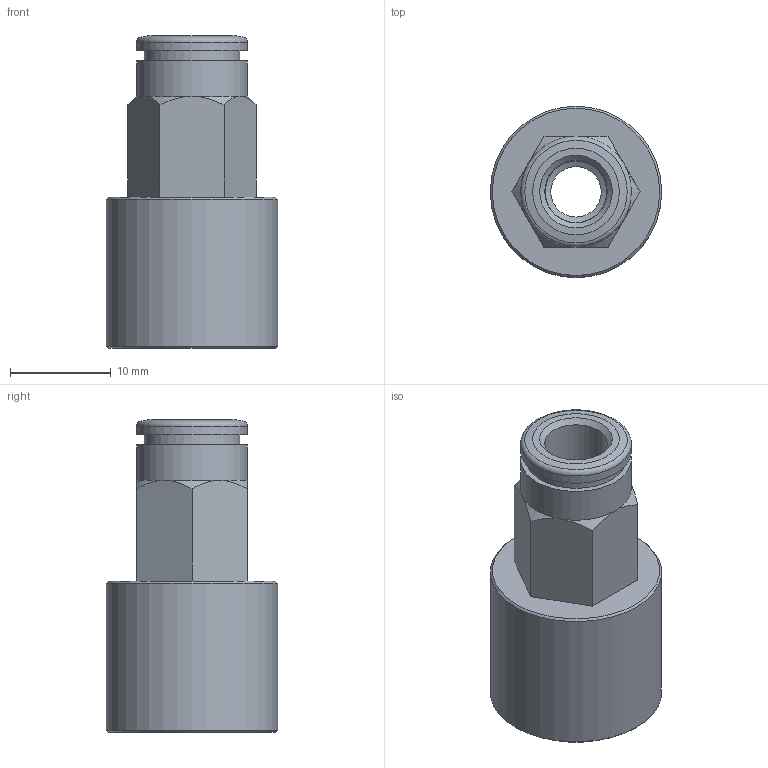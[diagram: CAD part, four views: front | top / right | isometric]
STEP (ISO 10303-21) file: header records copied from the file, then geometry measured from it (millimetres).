
FILE_DESCRIPTION(('Bauteilbeschreibung','HiCAD-Model','HiCAD-STEP-TRANSLATION','Bauteilbeschreibung'),'2;1');
FILE_NAME('B:/ABGLEICH/ZEICHNUNGEN/STEP FÜR INTERNET/STEP/IPSO 02/200206_IPSO_02_6_1-4.STP','2012-06-29T14:39:11+00:00',('Konstrukteur'),('Konstrukteur Firma GmbH'),' HiCAD neXt 2008, Step 3.1.1401.2J ','HiCAD neXt 2008','confidential');
FILE_SCHEMA(('AUTOMOTIVE_DESIGN { 1 2 10303 214 0 1 1 1 }'));
Length unit declared in the file: millimetre
Products named in the file (5): A00206_IPSO_02_6_1_4; DR6_1_NEU; R200206_N; R2002060N; G 1_4
Assembly tree (4 placements, depth 3):
  A00206_IPSO_02_6_1_4
    DR6_1_NEU
    R200206_N
    R2002060N
      G 1_4
Bounding box: 17 x 17 x 31 mm (x, y, z)
Volume: 2921.8 mm3; surface area: 3916.2 mm2
Topology: 3 solids, 3 shells, 49 faces, 100 edges, 61 vertices
Faces by surface type: cone 18, plane 16, cylinder 14, torus 1
Full cylindrical faces by diameter (mm): 5 x1, 6.1 x1, 6.2 x1, 8.3 x1, 9 x1, 9.5 x1, 9.6 x1, 11 x2, 11.445 x2, 13.157 x2, 17 x1
Entity records: 1540 total; most frequent: DIRECTION 210, CARTESIAN_POINT 201, ORIENTED_EDGE 132, AXIS2_PLACEMENT_3D 99, EDGE_LOOP 86, COLOUR_RGB 69, PRESENTATION_STYLE_ASSIGNMENT 69, CURVE_STYLE 66
